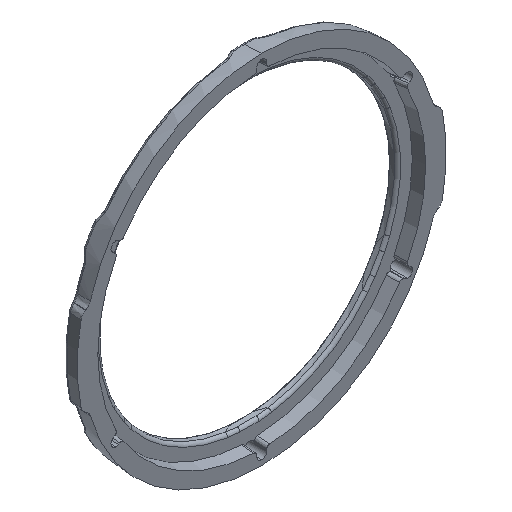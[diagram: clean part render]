
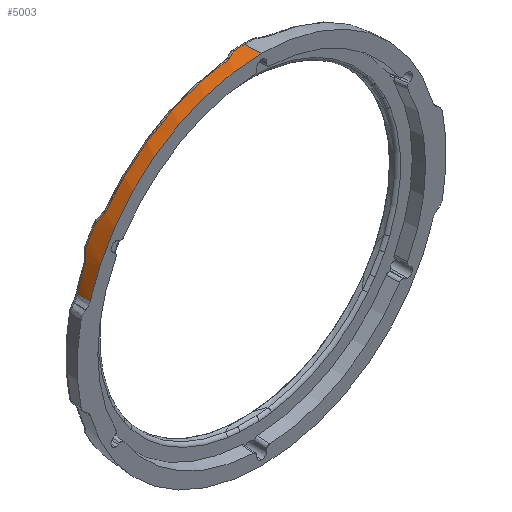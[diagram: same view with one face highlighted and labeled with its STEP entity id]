
A CAD part, isometric view. The second image highlights one B-rep face of the part: STEP entity #5003.
In plain terms, the highlighted conical face has half-angle 3 degrees and reference radius 57.245 mm.
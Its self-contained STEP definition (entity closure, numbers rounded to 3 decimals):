
#80 = CIRCLE ( 'NONE', #9550, 56.954 ) ;
#109 = EDGE_CURVE ( 'NONE', #10761, #7208, #9911, .T. ) ;
#220 = CARTESIAN_POINT ( 'NONE',  ( -50.907, 5.552, 25.538 ) ) ;
#387 = ORIENTED_EDGE ( 'NONE', *, *, #5393, .T. ) ;
#521 = CARTESIAN_POINT ( 'NONE',  ( 0., 5.552, 0. ) ) ;
#565 = DIRECTION ( 'NONE',  ( -1., 0., 0. ) ) ;
#637 = ORIENTED_EDGE ( 'NONE', *, *, #10252, .T. ) ;
#759 = DIRECTION ( 'NONE',  ( 0., -1., 0. ) ) ;
#1069 = EDGE_CURVE ( 'NONE', #2988, #7315, #8965, .T. ) ;
#1364 = CARTESIAN_POINT ( 'NONE',  ( -46.021, 4.265, 33.668 ) ) ;
#1639 = CARTESIAN_POINT ( 'NONE',  ( 0., 5.552, 0. ) ) ;
#1643 = EDGE_CURVE ( 'NONE', #8406, #12003, #3926, .T. ) ;
#1707 = CARTESIAN_POINT ( 'NONE',  ( -51.348, 5.123, 24.71 ) ) ;
#2107 = DIRECTION ( 'NONE',  ( 0., 0., 1. ) ) ;
#2208 = CIRCLE ( 'NONE', #9633, 57.021 ) ;
#2242 = CARTESIAN_POINT ( 'NONE',  ( -6.147, 4.265, 56.689 ) ) ;
#2417 = CARTESIAN_POINT ( 'NONE',  ( 0., 0., 0. ) ) ;
#2487 = ORIENTED_EDGE ( 'NONE', *, *, #9411, .T. ) ;
#2871 = EDGE_CURVE ( 'NONE', #7208, #5994, #12300, .T. ) ;
#2988 = VERTEX_POINT ( 'NONE', #6795 ) ;
#3409 = DIRECTION ( 'NONE',  ( 0., -1., 0. ) ) ;
#3520 = DIRECTION ( 'NONE',  ( 0., 0., 1. ) ) ;
#3740 = CARTESIAN_POINT ( 'NONE',  ( -54.921, 1.422, 15.879 ) ) ;
#3926 = B_SPLINE_CURVE_WITH_KNOTS ( 'NONE', 3,
 ( #7592, #8529, #10336, #11303 ),
 .UNSPECIFIED., .F., .F.,
 ( 4, 4 ),
 ( 0., 0.003 ),
 .UNSPECIFIED. ) ;
#4141 = CARTESIAN_POINT ( 'NONE',  ( 0., 0., 0. ) ) ;
#4150 = CARTESIAN_POINT ( 'NONE',  ( -47.074, 5.123, 32.114 ) ) ;
#4328 = DIRECTION ( 'NONE',  ( 0., -1., 0. ) ) ;
#4445 = B_SPLINE_CURVE_WITH_KNOTS ( 'NONE', 3,
 ( #6415, #8398, #4150, #5115 ),
 .UNSPECIFIED., .F., .F.,
 ( 4, 4 ),
 ( 0., 0.003 ),
 .UNSPECIFIED. ) ;
#4712 = CARTESIAN_POINT ( 'NONE',  ( -52.168, 4.265, 23.021 ) ) ;
#4877 = DIRECTION ( 'NONE',  ( 0., -0.999, 0.052 ) ) ;
#4915 = CIRCLE ( 'NONE', #9495, 57.021 ) ;
#5003 = ADVANCED_FACE ( 'NONE', ( #9239 ), #6678, .T. ) ;
#5115 = CARTESIAN_POINT ( 'NONE',  ( -47.57, 5.552, 31.318 ) ) ;
#5161 = ORIENTED_EDGE ( 'NONE', *, *, #7616, .T. ) ;
#5242 = VERTEX_POINT ( 'NONE', #6745 ) ;
#5393 = EDGE_CURVE ( 'NONE', #8481, #2988, #4445, .T. ) ;
#5597 = VERTEX_POINT ( 'NONE', #10293 ) ;
#5718 = ORIENTED_EDGE ( 'NONE', *, *, #109, .F. ) ;
#5994 = VERTEX_POINT ( 'NONE', #8939 ) ;
#6415 = CARTESIAN_POINT ( 'NONE',  ( -46.021, 4.265, 33.668 ) ) ;
#6646 = CARTESIAN_POINT ( 'NONE',  ( -50.907, 5.552, 25.538 ) ) ;
#6678 = CONICAL_SURFACE ( 'NONE', #8839, 57.245, 0.052 ) ;
#6745 = CARTESIAN_POINT ( 'NONE',  ( -54.794, 4.265, 15.783 ) ) ;
#6795 = CARTESIAN_POINT ( 'NONE',  ( -47.57, 5.552, 31.318 ) ) ;
#6831 = ORIENTED_EDGE ( 'NONE', *, *, #8671, .T. ) ;
#7110 = CARTESIAN_POINT ( 'NONE',  ( -3.337, 5.552, 56.856 ) ) ;
#7208 = VERTEX_POINT ( 'NONE', #10681 ) ;
#7315 = VERTEX_POINT ( 'NONE', #220 ) ;
#7484 = CARTESIAN_POINT ( 'NONE',  ( 0., 5.552, 56.954 ) ) ;
#7503 = CARTESIAN_POINT ( 'NONE',  ( -54.985, 0., 15.927 ) ) ;
#7504 = ORIENTED_EDGE ( 'NONE', *, *, #2871, .F. ) ;
#7592 = CARTESIAN_POINT ( 'NONE',  ( -3.337, 5.552, 56.856 ) ) ;
#7616 = EDGE_CURVE ( 'NONE', #10761, #8406, #80, .T. ) ;
#7625 = CARTESIAN_POINT ( 'NONE',  ( -51.768, 4.694, 23.871 ) ) ;
#8030 = ORIENTED_EDGE ( 'NONE', *, *, #9449, .T. ) ;
#8255 = VECTOR ( 'NONE', #4877, 1000. ) ;
#8398 = CARTESIAN_POINT ( 'NONE',  ( -46.557, 4.694, 32.897 ) ) ;
#8406 = VERTEX_POINT ( 'NONE', #7110 ) ;
#8421 = DIRECTION ( 'NONE',  ( 0., 0., 1. ) ) ;
#8481 = VERTEX_POINT ( 'NONE', #1364 ) ;
#8529 = CARTESIAN_POINT ( 'NONE',  ( -4.274, 5.123, 56.824 ) ) ;
#8595 = AXIS2_PLACEMENT_3D ( 'NONE', #2417, #9139, #3520 ) ;
#8671 = EDGE_CURVE ( 'NONE', #12003, #8481, #2208, .T. ) ;
#8839 = AXIS2_PLACEMENT_3D ( 'NONE', #4141, #10927, #2107 ) ;
#8939 = CARTESIAN_POINT ( 'NONE',  ( -54.985, 0., 15.927 ) ) ;
#8965 = CIRCLE ( 'NONE', #10536, 56.954 ) ;
#9116 = DIRECTION ( 'NONE',  ( 0., 0., -1. ) ) ;
#9139 = DIRECTION ( 'NONE',  ( 0., -1., 0. ) ) ;
#9239 = FACE_OUTER_BOUND ( 'NONE', #9402, .T. ) ;
#9402 = EDGE_LOOP ( 'NONE', ( #5718, #5161, #11377, #6831, #387, #12196, #2487, #637, #8030, #7504 ) ) ;
#9411 = EDGE_CURVE ( 'NONE', #7315, #5597, #9752, .T. ) ;
#9449 = EDGE_CURVE ( 'NONE', #5242, #5994, #9849, .T. ) ;
#9495 = AXIS2_PLACEMENT_3D ( 'NONE', #11202, #4328, #9116 ) ;
#9538 = CARTESIAN_POINT ( 'NONE',  ( -54.857, 2.843, 15.831 ) ) ;
#9550 = AXIS2_PLACEMENT_3D ( 'NONE', #521, #3409, #565 ) ;
#9603 = CARTESIAN_POINT ( 'NONE',  ( 0., 4.265, 0. ) ) ;
#9633 = AXIS2_PLACEMENT_3D ( 'NONE', #9603, #759, #10551 ) ;
#9752 = B_SPLINE_CURVE_WITH_KNOTS ( 'NONE', 3,
 ( #6646, #1707, #7625, #4712 ),
 .UNSPECIFIED., .F., .F.,
 ( 4, 4 ),
 ( 0., 0.003 ),
 .UNSPECIFIED. ) ;
#9849 = B_SPLINE_CURVE_WITH_KNOTS ( 'NONE', 3,
 ( #11373, #9538, #3740, #7503 ),
 .UNSPECIFIED., .F., .F.,
 ( 4, 4 ),
 ( 0.001, 0.005 ),
 .UNSPECIFIED. ) ;
#9911 = LINE ( 'NONE', #10827, #8255 ) ;
#10252 = EDGE_CURVE ( 'NONE', #5597, #5242, #4915, .T. ) ;
#10293 = CARTESIAN_POINT ( 'NONE',  ( -52.168, 4.265, 23.021 ) ) ;
#10336 = CARTESIAN_POINT ( 'NONE',  ( -5.211, 4.694, 56.768 ) ) ;
#10536 = AXIS2_PLACEMENT_3D ( 'NONE', #1639, #11179, #8421 ) ;
#10551 = DIRECTION ( 'NONE',  ( 0., 0., -1. ) ) ;
#10681 = CARTESIAN_POINT ( 'NONE',  ( 0., 0., 57.245 ) ) ;
#10761 = VERTEX_POINT ( 'NONE', #7484 ) ;
#10827 = CARTESIAN_POINT ( 'NONE',  ( 0., 0., 57.245 ) ) ;
#10927 = DIRECTION ( 'NONE',  ( 0., -1., 0. ) ) ;
#11179 = DIRECTION ( 'NONE',  ( 0., -1., 0. ) ) ;
#11202 = CARTESIAN_POINT ( 'NONE',  ( 0., 4.265, 0. ) ) ;
#11303 = CARTESIAN_POINT ( 'NONE',  ( -6.147, 4.265, 56.689 ) ) ;
#11373 = CARTESIAN_POINT ( 'NONE',  ( -54.794, 4.265, 15.783 ) ) ;
#11377 = ORIENTED_EDGE ( 'NONE', *, *, #1643, .T. ) ;
#12003 = VERTEX_POINT ( 'NONE', #2242 ) ;
#12196 = ORIENTED_EDGE ( 'NONE', *, *, #1069, .T. ) ;
#12300 = CIRCLE ( 'NONE', #8595, 57.245 ) ;
